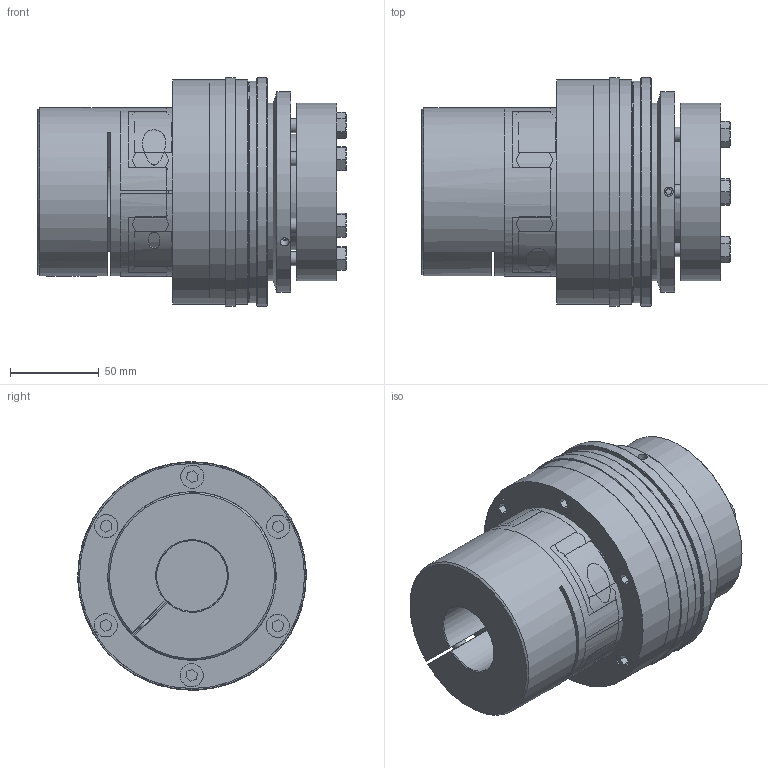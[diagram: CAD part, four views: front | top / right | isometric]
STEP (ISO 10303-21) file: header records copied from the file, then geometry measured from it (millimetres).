
FILE_DESCRIPTION( ( 'Unknown' ), '1' );
FILE_NAME( 'C:/Dokumente und Einstellungen/Sven/Desktop/hp kbk/E-KA/KBK EKA-42.stp', 'Unknown', ( 'Unknown' ), ( 'Unknown' ), 'XStep 1.0', 'Unknown', ' ' );
FILE_SCHEMA( ( 'automotive_design' ) );
Length unit declared in the file: millimetre
Products named in the file (17): Assem1; Assem2; Assem3; ball_bearing_-_6013_0_01; ball_bearing_-_6013_0_02; ball_bearing_-_6013_0_03; Zylinderschraube DIN 912_4; Stellring 500; Druckring 500; Flansch 500; a_65; KBK L-A-500 Grundkörper; Druckring L-A-500; din_en_24017_m8x35; Elastormerflansch 42; Zahnkranz 42; KBE2-42 Nabe
Bounding box: 173.85 x 129 x 129 mm (x, y, z)
Volume: 2456298.3 mm3; surface area: 629360.9 mm2
Topology: 43 solids, 43 shells, 1010 faces, 2266 edges, 1461 vertices
Faces by surface type: plane 363, cylinder 340, cone 269, torus 38
Full cylindrical faces by diameter (mm): 3 x4, 3.242 x6, 5.1 x6, 5.2 x6, 6 x16, 6.647 x26, 8 x16, 8.2 x12, 8.5 x14, 11.63 x7, 13 x11, 13.1 x12, 35 x2, 40 x4, 46 x4, 62 x2, 65 x7, 65.111 x2, 76.3 x6, 86 x4, 89.1 x6, 91 x2, 95 x2, 100 x9, 104.5 x2, 113 x2, 114 x2, 125 x4, 127 x2, 129 x2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
Entity records: 11490 total; most frequent: CARTESIAN_POINT 2608, DIRECTION 1908, ORIENTED_EDGE 1474, AXIS2_PLACEMENT_3D 875, EDGE_CURVE 737, EDGE_LOOP 630, VERTEX_POINT 545, FACE_OUTER_BOUND 492
